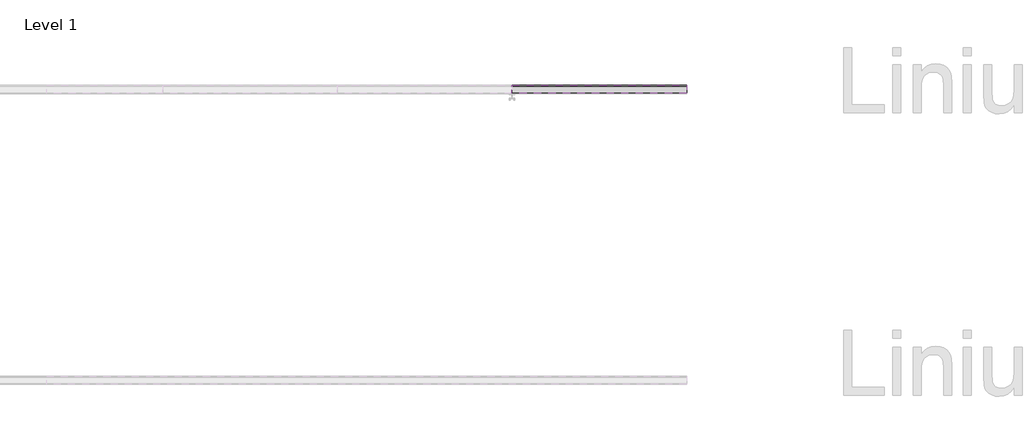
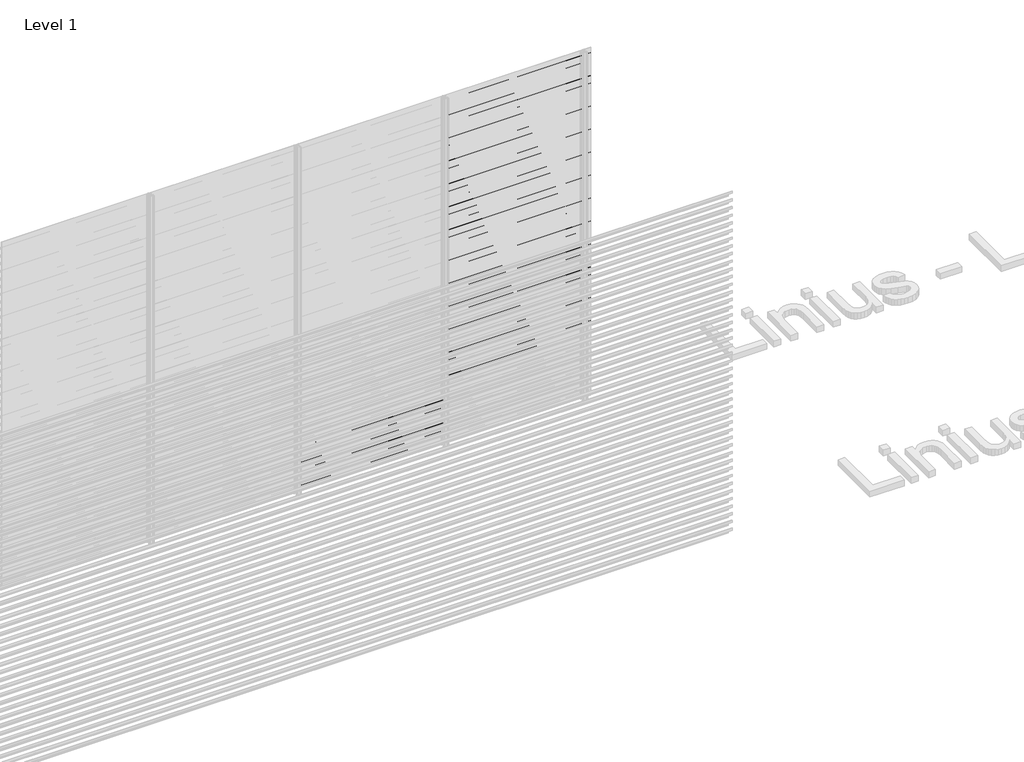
# One storey, part 136 of 540: 43 proxies.
"""IFC4 building model written with IfcOpenShell, lengths in millimetres."""

from ifc_helpers import new_model, si_unit, point, frame, frame_2d, origin, place, context, project, spatial, polyline, circle_curve, trimmed, segment, composite_curve, outline, extrude, element, save

model = new_model("IFC4")

# Units and contexts
model_context = context("Model", 3, world=origin())
ifc_project = project(units=[si_unit("LENGTHUNIT", "METRE", prefix="MILLI")], contexts=[model_context])

# Site, building, storey
site = spatial("IfcSite", under=ifc_project)
building = spatial("IfcBuilding", under=site)
storey = spatial("IfcBuildingStorey", under=building, Name="Level 1", Elevation=0.0)

# Proxies
placement = place(None, origin())
element("IfcBuildingElementProxy", 1, Name="Wall Sweeps", at=placement, inside=storey, context=model_context, shape_type="SweptSolid", body=[
    extrude(outline(composite_curve([segment(trimmed(circle_curve(frame_2d((21513.609548, 2899.7676769)), 26.4944656), [point((21530.5717655, 2920.1205608))], [point((21540.0540136, 2901.3946208))], False, "CARTESIAN"), True, "CONTINUOUS"), segment(polyline([(21540.0540136, 2901.3946208), (21540.0540136, 2893.5), (21538.8040136, 2894.2216933), (21538.8040136, 2899.7676769)]), True, "CONTINUOUS"), segment(trimmed(circle_curve(frame_2d((21513.609548, 2899.7676769)), 25.1944656), [point((21538.8040136, 2899.7676769))], [point((21529.7815085, 2919.086807))], True, "CARTESIAN"), True, "CONTINUOUS"), segment(polyline([(21529.7815085, 2919.086807), (21485.0540136, 2950.3158044), (21485.0540136, 2970.0), (21486.3040136, 2970.0), (21486.3040136, 2951.0285629), (21530.5717655, 2920.1205608)]), True, "CONTINUOUS")], self_intersect=False)), frame((94266.6208095, 0.0, 0.0), z_axis=(1.0, 0.0, 0.0), x_axis=(0.0, 1.0, 0.0)), (0.0, 0.0, 1.0), 1200.0000002),
])
element("IfcBuildingElementProxy", 2, Name="Wall Sweeps", at=placement, inside=storey, context=model_context, shape_type="SweptSolid", body=[
    extrude(outline(composite_curve([segment(trimmed(circle_curve(frame_2d((21513.609548, 2833.7676769)), 26.4944656), [point((21530.5717655, 2854.1205608))], [point((21540.0540136, 2835.3946208))], False, "CARTESIAN"), True, "CONTINUOUS"), segment(polyline([(21540.0540136, 2835.3946208), (21540.0540136, 2827.5), (21538.8040136, 2828.2216933), (21538.8040136, 2833.7676769)]), True, "CONTINUOUS"), segment(trimmed(circle_curve(frame_2d((21513.609548, 2833.7676769)), 25.1944656), [point((21538.8040136, 2833.7676769))], [point((21529.7815085, 2853.086807))], True, "CARTESIAN"), True, "CONTINUOUS"), segment(polyline([(21529.7815085, 2853.086807), (21485.0540136, 2884.3158044), (21485.0540136, 2904.0), (21486.3040136, 2904.0), (21486.3040136, 2885.0285629), (21530.5717655, 2854.1205608)]), True, "CONTINUOUS")], self_intersect=False)), frame((94266.6208095, 0.0, 0.0), z_axis=(1.0, 0.0, 0.0), x_axis=(0.0, 1.0, 0.0)), (0.0, 0.0, 1.0), 1200.0000002),
])
element("IfcBuildingElementProxy", 3, Name="Wall Sweeps", at=placement, inside=storey, context=model_context, shape_type="SweptSolid", body=[
    extrude(outline(composite_curve([segment(trimmed(circle_curve(frame_2d((21513.609548, 2767.7676769)), 26.4944656), [point((21530.5717655, 2788.1205608))], [point((21540.0540136, 2769.3946208))], False, "CARTESIAN"), True, "CONTINUOUS"), segment(polyline([(21540.0540136, 2769.3946208), (21540.0540136, 2761.5), (21538.8040136, 2762.2216933), (21538.8040136, 2767.7676769)]), True, "CONTINUOUS"), segment(trimmed(circle_curve(frame_2d((21513.609548, 2767.7676769)), 25.1944656), [point((21538.8040136, 2767.7676769))], [point((21529.7815085, 2787.086807))], True, "CARTESIAN"), True, "CONTINUOUS"), segment(polyline([(21529.7815085, 2787.086807), (21485.0540136, 2818.3158044), (21485.0540136, 2838.0), (21486.3040136, 2838.0), (21486.3040136, 2819.0285629), (21530.5717655, 2788.1205608)]), True, "CONTINUOUS")], self_intersect=False)), frame((94266.6208095, 0.0, 0.0), z_axis=(1.0, 0.0, 0.0), x_axis=(0.0, 1.0, 0.0)), (0.0, 0.0, 1.0), 1200.0000002),
])
element("IfcBuildingElementProxy", 4, Name="Wall Sweeps", at=placement, inside=storey, context=model_context, shape_type="SweptSolid", body=[
    extrude(outline(composite_curve([segment(trimmed(circle_curve(frame_2d((21513.609548, 2701.7676769)), 26.4944656), [point((21530.5717655, 2722.1205608))], [point((21540.0540136, 2703.3946208))], False, "CARTESIAN"), True, "CONTINUOUS"), segment(polyline([(21540.0540136, 2703.3946208), (21540.0540136, 2695.5), (21538.8040136, 2696.2216933), (21538.8040136, 2701.7676769)]), True, "CONTINUOUS"), segment(trimmed(circle_curve(frame_2d((21513.609548, 2701.7676769)), 25.1944656), [point((21538.8040136, 2701.7676769))], [point((21529.7815085, 2721.086807))], True, "CARTESIAN"), True, "CONTINUOUS"), segment(polyline([(21529.7815085, 2721.086807), (21485.0540136, 2752.3158044), (21485.0540136, 2772.0), (21486.3040136, 2772.0), (21486.3040136, 2753.0285629), (21530.5717655, 2722.1205608)]), True, "CONTINUOUS")], self_intersect=False)), frame((94266.6208095, 0.0, 0.0), z_axis=(1.0, 0.0, 0.0), x_axis=(0.0, 1.0, 0.0)), (0.0, 0.0, 1.0), 1200.0000002),
])
element("IfcBuildingElementProxy", 5, Name="Wall Sweeps", at=placement, inside=storey, context=model_context, shape_type="SweptSolid", body=[
    extrude(outline(composite_curve([segment(trimmed(circle_curve(frame_2d((21513.609548, 2635.7676769)), 26.4944656), [point((21530.5717655, 2656.1205608))], [point((21540.0540136, 2637.3946208))], False, "CARTESIAN"), True, "CONTINUOUS"), segment(polyline([(21540.0540136, 2637.3946208), (21540.0540136, 2629.5), (21538.8040136, 2630.2216933), (21538.8040136, 2635.7676769)]), True, "CONTINUOUS"), segment(trimmed(circle_curve(frame_2d((21513.609548, 2635.7676769)), 25.1944656), [point((21538.8040136, 2635.7676769))], [point((21529.7815085, 2655.086807))], True, "CARTESIAN"), True, "CONTINUOUS"), segment(polyline([(21529.7815085, 2655.086807), (21485.0540136, 2686.3158044), (21485.0540136, 2706.0), (21486.3040136, 2706.0), (21486.3040136, 2687.0285629), (21530.5717655, 2656.1205608)]), True, "CONTINUOUS")], self_intersect=False)), frame((94266.6208095, 0.0, 0.0), z_axis=(1.0, 0.0, 0.0), x_axis=(0.0, 1.0, 0.0)), (0.0, 0.0, 1.0), 1200.0000002),
])
element("IfcBuildingElementProxy", 6, Name="Wall Sweeps", at=placement, inside=storey, context=model_context, shape_type="SweptSolid", body=[
    extrude(outline(composite_curve([segment(trimmed(circle_curve(frame_2d((21513.609548, 2569.7676769)), 26.4944656), [point((21530.5717655, 2590.1205608))], [point((21540.0540136, 2571.3946208))], False, "CARTESIAN"), True, "CONTINUOUS"), segment(polyline([(21540.0540136, 2571.3946208), (21540.0540136, 2563.5), (21538.8040136, 2564.2216933), (21538.8040136, 2569.7676769)]), True, "CONTINUOUS"), segment(trimmed(circle_curve(frame_2d((21513.609548, 2569.7676769)), 25.1944656), [point((21538.8040136, 2569.7676769))], [point((21529.7815085, 2589.086807))], True, "CARTESIAN"), True, "CONTINUOUS"), segment(polyline([(21529.7815085, 2589.086807), (21485.0540136, 2620.3158044), (21485.0540136, 2640.0), (21486.3040136, 2640.0), (21486.3040136, 2621.0285629), (21530.5717655, 2590.1205608)]), True, "CONTINUOUS")], self_intersect=False)), frame((94266.6208095, 0.0, 0.0), z_axis=(1.0, 0.0, 0.0), x_axis=(0.0, 1.0, 0.0)), (0.0, 0.0, 1.0), 1200.0000002),
])
element("IfcBuildingElementProxy", 7, Name="Wall Sweeps", at=placement, inside=storey, context=model_context, shape_type="SweptSolid", body=[
    extrude(outline(composite_curve([segment(trimmed(circle_curve(frame_2d((21513.609548, 2503.7676769)), 26.4944656), [point((21530.5717655, 2524.1205608))], [point((21540.0540136, 2505.3946208))], False, "CARTESIAN"), True, "CONTINUOUS"), segment(polyline([(21540.0540136, 2505.3946208), (21540.0540136, 2497.5), (21538.8040136, 2498.2216933), (21538.8040136, 2503.7676769)]), True, "CONTINUOUS"), segment(trimmed(circle_curve(frame_2d((21513.609548, 2503.7676769)), 25.1944656), [point((21538.8040136, 2503.7676769))], [point((21529.7815085, 2523.086807))], True, "CARTESIAN"), True, "CONTINUOUS"), segment(polyline([(21529.7815085, 2523.086807), (21485.0540136, 2554.3158044), (21485.0540136, 2574.0), (21486.3040136, 2574.0), (21486.3040136, 2555.0285629), (21530.5717655, 2524.1205608)]), True, "CONTINUOUS")], self_intersect=False)), frame((94266.6208095, 0.0, 0.0), z_axis=(1.0, 0.0, 0.0), x_axis=(0.0, 1.0, 0.0)), (0.0, 0.0, 1.0), 1200.0000002),
])
element("IfcBuildingElementProxy", 8, Name="Wall Sweeps", at=placement, inside=storey, context=model_context, shape_type="SweptSolid", body=[
    extrude(outline(composite_curve([segment(trimmed(circle_curve(frame_2d((21513.609548, 2437.7676769)), 26.4944656), [point((21530.5717655, 2458.1205608))], [point((21540.0540136, 2439.3946208))], False, "CARTESIAN"), True, "CONTINUOUS"), segment(polyline([(21540.0540136, 2439.3946208), (21540.0540136, 2431.5), (21538.8040136, 2432.2216933), (21538.8040136, 2437.7676769)]), True, "CONTINUOUS"), segment(trimmed(circle_curve(frame_2d((21513.609548, 2437.7676769)), 25.1944656), [point((21538.8040136, 2437.7676769))], [point((21529.7815085, 2457.086807))], True, "CARTESIAN"), True, "CONTINUOUS"), segment(polyline([(21529.7815085, 2457.086807), (21485.0540136, 2488.3158044), (21485.0540136, 2508.0), (21486.3040136, 2508.0), (21486.3040136, 2489.0285629), (21530.5717655, 2458.1205608)]), True, "CONTINUOUS")], self_intersect=False)), frame((94266.6208095, 0.0, 0.0), z_axis=(1.0, 0.0, 0.0), x_axis=(0.0, 1.0, 0.0)), (0.0, 0.0, 1.0), 1200.0000002),
])
element("IfcBuildingElementProxy", 9, Name="Wall Sweeps", at=placement, inside=storey, context=model_context, shape_type="SweptSolid", body=[
    extrude(outline(composite_curve([segment(trimmed(circle_curve(frame_2d((21513.609548, 2371.7676769)), 26.4944656), [point((21530.5717655, 2392.1205608))], [point((21540.0540136, 2373.3946208))], False, "CARTESIAN"), True, "CONTINUOUS"), segment(polyline([(21540.0540136, 2373.3946208), (21540.0540136, 2365.5), (21538.8040136, 2366.2216933), (21538.8040136, 2371.7676769)]), True, "CONTINUOUS"), segment(trimmed(circle_curve(frame_2d((21513.609548, 2371.7676769)), 25.1944656), [point((21538.8040136, 2371.7676769))], [point((21529.7815085, 2391.086807))], True, "CARTESIAN"), True, "CONTINUOUS"), segment(polyline([(21529.7815085, 2391.086807), (21485.0540136, 2422.3158044), (21485.0540136, 2442.0), (21486.3040136, 2442.0), (21486.3040136, 2423.0285629), (21530.5717655, 2392.1205608)]), True, "CONTINUOUS")], self_intersect=False)), frame((94266.6208095, 0.0, 0.0), z_axis=(1.0, 0.0, 0.0), x_axis=(0.0, 1.0, 0.0)), (0.0, 0.0, 1.0), 1200.0000002),
])
element("IfcBuildingElementProxy", 10, Name="Wall Sweeps", at=placement, inside=storey, context=model_context, shape_type="SweptSolid", body=[
    extrude(outline(composite_curve([segment(trimmed(circle_curve(frame_2d((21513.609548, 2305.7676769)), 26.4944656), [point((21530.5717655, 2326.1205608))], [point((21540.0540136, 2307.3946208))], False, "CARTESIAN"), True, "CONTINUOUS"), segment(polyline([(21540.0540136, 2307.3946208), (21540.0540136, 2299.5), (21538.8040136, 2300.2216933), (21538.8040136, 2305.7676769)]), True, "CONTINUOUS"), segment(trimmed(circle_curve(frame_2d((21513.609548, 2305.7676769)), 25.1944656), [point((21538.8040136, 2305.7676769))], [point((21529.7815085, 2325.086807))], True, "CARTESIAN"), True, "CONTINUOUS"), segment(polyline([(21529.7815085, 2325.086807), (21485.0540136, 2356.3158044), (21485.0540136, 2376.0), (21486.3040136, 2376.0), (21486.3040136, 2357.0285629), (21530.5717655, 2326.1205608)]), True, "CONTINUOUS")], self_intersect=False)), frame((94266.6208095, 0.0, 0.0), z_axis=(1.0, 0.0, 0.0), x_axis=(0.0, 1.0, 0.0)), (0.0, 0.0, 1.0), 1200.0000002),
])
element("IfcBuildingElementProxy", 11, Name="Wall Sweeps", at=placement, inside=storey, context=model_context, shape_type="SweptSolid", body=[
    extrude(outline(composite_curve([segment(trimmed(circle_curve(frame_2d((21513.609548, 2239.7676769)), 26.4944656), [point((21530.5717655, 2260.1205608))], [point((21540.0540136, 2241.3946208))], False, "CARTESIAN"), True, "CONTINUOUS"), segment(polyline([(21540.0540136, 2241.3946208), (21540.0540136, 2233.5), (21538.8040136, 2234.2216933), (21538.8040136, 2239.7676769)]), True, "CONTINUOUS"), segment(trimmed(circle_curve(frame_2d((21513.609548, 2239.7676769)), 25.1944656), [point((21538.8040136, 2239.7676769))], [point((21529.7815085, 2259.086807))], True, "CARTESIAN"), True, "CONTINUOUS"), segment(polyline([(21529.7815085, 2259.086807), (21485.0540136, 2290.3158044), (21485.0540136, 2310.0), (21486.3040136, 2310.0), (21486.3040136, 2291.0285629), (21530.5717655, 2260.1205608)]), True, "CONTINUOUS")], self_intersect=False)), frame((94266.6208095, 0.0, 0.0), z_axis=(1.0, 0.0, 0.0), x_axis=(0.0, 1.0, 0.0)), (0.0, 0.0, 1.0), 1200.0000002),
])
element("IfcBuildingElementProxy", 12, Name="Wall Sweeps", at=placement, inside=storey, context=model_context, shape_type="SweptSolid", body=[
    extrude(outline(composite_curve([segment(trimmed(circle_curve(frame_2d((21513.609548, 2173.7676769)), 26.4944656), [point((21530.5717655, 2194.1205608))], [point((21540.0540136, 2175.3946208))], False, "CARTESIAN"), True, "CONTINUOUS"), segment(polyline([(21540.0540136, 2175.3946208), (21540.0540136, 2167.5), (21538.8040136, 2168.2216933), (21538.8040136, 2173.7676769)]), True, "CONTINUOUS"), segment(trimmed(circle_curve(frame_2d((21513.609548, 2173.7676769)), 25.1944656), [point((21538.8040136, 2173.7676769))], [point((21529.7815085, 2193.086807))], True, "CARTESIAN"), True, "CONTINUOUS"), segment(polyline([(21529.7815085, 2193.086807), (21485.0540136, 2224.3158044), (21485.0540136, 2244.0), (21486.3040136, 2244.0), (21486.3040136, 2225.0285629), (21530.5717655, 2194.1205608)]), True, "CONTINUOUS")], self_intersect=False)), frame((94266.6208095, 0.0, 0.0), z_axis=(1.0, 0.0, 0.0), x_axis=(0.0, 1.0, 0.0)), (0.0, 0.0, 1.0), 1200.0000002),
])
element("IfcBuildingElementProxy", 13, Name="Wall Sweeps", at=placement, inside=storey, context=model_context, shape_type="SweptSolid", body=[
    extrude(outline(composite_curve([segment(trimmed(circle_curve(frame_2d((21513.609548, 2107.7676769)), 26.4944656), [point((21530.5717655, 2128.1205608))], [point((21540.0540136, 2109.3946208))], False, "CARTESIAN"), True, "CONTINUOUS"), segment(polyline([(21540.0540136, 2109.3946208), (21540.0540136, 2101.5), (21538.8040136, 2102.2216933), (21538.8040136, 2107.7676769)]), True, "CONTINUOUS"), segment(trimmed(circle_curve(frame_2d((21513.609548, 2107.7676769)), 25.1944656), [point((21538.8040136, 2107.7676769))], [point((21529.7815085, 2127.086807))], True, "CARTESIAN"), True, "CONTINUOUS"), segment(polyline([(21529.7815085, 2127.086807), (21485.0540136, 2158.3158044), (21485.0540136, 2178.0), (21486.3040136, 2178.0), (21486.3040136, 2159.0285629), (21530.5717655, 2128.1205608)]), True, "CONTINUOUS")], self_intersect=False)), frame((94266.6208095, 0.0, 0.0), z_axis=(1.0, 0.0, 0.0), x_axis=(0.0, 1.0, 0.0)), (0.0, 0.0, 1.0), 1200.0000002),
])
element("IfcBuildingElementProxy", 14, Name="Wall Sweeps", at=placement, inside=storey, context=model_context, shape_type="SweptSolid", body=[
    extrude(outline(composite_curve([segment(trimmed(circle_curve(frame_2d((21513.609548, 2041.7676769)), 26.4944656), [point((21530.5717655, 2062.1205608))], [point((21540.0540136, 2043.3946208))], False, "CARTESIAN"), True, "CONTINUOUS"), segment(polyline([(21540.0540136, 2043.3946208), (21540.0540136, 2035.5), (21538.8040136, 2036.2216933), (21538.8040136, 2041.7676769)]), True, "CONTINUOUS"), segment(trimmed(circle_curve(frame_2d((21513.609548, 2041.7676769)), 25.1944656), [point((21538.8040136, 2041.7676769))], [point((21529.7815085, 2061.086807))], True, "CARTESIAN"), True, "CONTINUOUS"), segment(polyline([(21529.7815085, 2061.086807), (21485.0540136, 2092.3158044), (21485.0540136, 2112.0), (21486.3040136, 2112.0), (21486.3040136, 2093.0285629), (21530.5717655, 2062.1205608)]), True, "CONTINUOUS")], self_intersect=False)), frame((94266.6208095, 0.0, 0.0), z_axis=(1.0, 0.0, 0.0), x_axis=(0.0, 1.0, 0.0)), (0.0, 0.0, 1.0), 1200.0000002),
])
element("IfcBuildingElementProxy", 15, Name="Wall Sweeps", at=placement, inside=storey, context=model_context, shape_type="SweptSolid", body=[
    extrude(outline(composite_curve([segment(trimmed(circle_curve(frame_2d((21513.609548, 1975.7676769)), 26.4944656), [point((21530.5717655, 1996.1205608))], [point((21540.0540136, 1977.3946208))], False, "CARTESIAN"), True, "CONTINUOUS"), segment(polyline([(21540.0540136, 1977.3946208), (21540.0540136, 1969.5), (21538.8040136, 1970.2216933), (21538.8040136, 1975.7676769)]), True, "CONTINUOUS"), segment(trimmed(circle_curve(frame_2d((21513.609548, 1975.7676769)), 25.1944656), [point((21538.8040136, 1975.7676769))], [point((21529.7815085, 1995.086807))], True, "CARTESIAN"), True, "CONTINUOUS"), segment(polyline([(21529.7815085, 1995.086807), (21485.0540136, 2026.3158044), (21485.0540136, 2046.0), (21486.3040136, 2046.0), (21486.3040136, 2027.0285629), (21530.5717655, 1996.1205608)]), True, "CONTINUOUS")], self_intersect=False)), frame((94266.6208095, 0.0, 0.0), z_axis=(1.0, 0.0, 0.0), x_axis=(0.0, 1.0, 0.0)), (0.0, 0.0, 1.0), 1200.0000002),
])
element("IfcBuildingElementProxy", 16, Name="Wall Sweeps", at=placement, inside=storey, context=model_context, shape_type="SweptSolid", body=[
    extrude(outline(composite_curve([segment(trimmed(circle_curve(frame_2d((21513.609548, 1909.7676769)), 26.4944656), [point((21530.5717655, 1930.1205608))], [point((21540.0540136, 1911.3946208))], False, "CARTESIAN"), True, "CONTINUOUS"), segment(polyline([(21540.0540136, 1911.3946208), (21540.0540136, 1903.5), (21538.8040136, 1904.2216933), (21538.8040136, 1909.7676769)]), True, "CONTINUOUS"), segment(trimmed(circle_curve(frame_2d((21513.609548, 1909.7676769)), 25.1944656), [point((21538.8040136, 1909.7676769))], [point((21529.7815085, 1929.086807))], True, "CARTESIAN"), True, "CONTINUOUS"), segment(polyline([(21529.7815085, 1929.086807), (21485.0540136, 1960.3158044), (21485.0540136, 1980.0), (21486.3040136, 1980.0), (21486.3040136, 1961.0285629), (21530.5717655, 1930.1205608)]), True, "CONTINUOUS")], self_intersect=False)), frame((94266.6208095, 0.0, 0.0), z_axis=(1.0, 0.0, 0.0), x_axis=(0.0, 1.0, 0.0)), (0.0, 0.0, 1.0), 1200.0000002),
])
element("IfcBuildingElementProxy", 17, Name="Wall Sweeps", at=placement, inside=storey, context=model_context, shape_type="SweptSolid", body=[
    extrude(outline(composite_curve([segment(trimmed(circle_curve(frame_2d((21513.609548, 1843.7676769)), 26.4944656), [point((21530.5717655, 1864.1205608))], [point((21540.0540136, 1845.3946208))], False, "CARTESIAN"), True, "CONTINUOUS"), segment(polyline([(21540.0540136, 1845.3946208), (21540.0540136, 1837.5), (21538.8040136, 1838.2216933), (21538.8040136, 1843.7676769)]), True, "CONTINUOUS"), segment(trimmed(circle_curve(frame_2d((21513.609548, 1843.7676769)), 25.1944656), [point((21538.8040136, 1843.7676769))], [point((21529.7815085, 1863.086807))], True, "CARTESIAN"), True, "CONTINUOUS"), segment(polyline([(21529.7815085, 1863.086807), (21485.0540136, 1894.3158044), (21485.0540136, 1914.0), (21486.3040136, 1914.0), (21486.3040136, 1895.0285629), (21530.5717655, 1864.1205608)]), True, "CONTINUOUS")], self_intersect=False)), frame((94266.6208095, 0.0, 0.0), z_axis=(1.0, 0.0, 0.0), x_axis=(0.0, 1.0, 0.0)), (0.0, 0.0, 1.0), 1200.0000002),
])
element("IfcBuildingElementProxy", 18, Name="Wall Sweeps", at=placement, inside=storey, context=model_context, shape_type="SweptSolid", body=[
    extrude(outline(composite_curve([segment(trimmed(circle_curve(frame_2d((21513.609548, 1777.7676769)), 26.4944656), [point((21530.5717655, 1798.1205608))], [point((21540.0540136, 1779.3946208))], False, "CARTESIAN"), True, "CONTINUOUS"), segment(polyline([(21540.0540136, 1779.3946208), (21540.0540136, 1771.5), (21538.8040136, 1772.2216933), (21538.8040136, 1777.7676769)]), True, "CONTINUOUS"), segment(trimmed(circle_curve(frame_2d((21513.609548, 1777.7676769)), 25.1944656), [point((21538.8040136, 1777.7676769))], [point((21529.7815085, 1797.086807))], True, "CARTESIAN"), True, "CONTINUOUS"), segment(polyline([(21529.7815085, 1797.086807), (21485.0540136, 1828.3158044), (21485.0540136, 1848.0), (21486.3040136, 1848.0), (21486.3040136, 1829.0285629), (21530.5717655, 1798.1205608)]), True, "CONTINUOUS")], self_intersect=False)), frame((94266.6208095, 0.0, 0.0), z_axis=(1.0, 0.0, 0.0), x_axis=(0.0, 1.0, 0.0)), (0.0, 0.0, 1.0), 1200.0000002),
])
element("IfcBuildingElementProxy", 19, Name="Wall Sweeps", at=placement, inside=storey, context=model_context, shape_type="SweptSolid", body=[
    extrude(outline(composite_curve([segment(trimmed(circle_curve(frame_2d((21513.609548, 1711.7676769)), 26.4944656), [point((21530.5717655, 1732.1205608))], [point((21540.0540136, 1713.3946208))], False, "CARTESIAN"), True, "CONTINUOUS"), segment(polyline([(21540.0540136, 1713.3946208), (21540.0540136, 1705.5), (21538.8040136, 1706.2216933), (21538.8040136, 1711.7676769)]), True, "CONTINUOUS"), segment(trimmed(circle_curve(frame_2d((21513.609548, 1711.7676769)), 25.1944656), [point((21538.8040136, 1711.7676769))], [point((21529.7815085, 1731.086807))], True, "CARTESIAN"), True, "CONTINUOUS"), segment(polyline([(21529.7815085, 1731.086807), (21485.0540136, 1762.3158044), (21485.0540136, 1782.0), (21486.3040136, 1782.0), (21486.3040136, 1763.0285629), (21530.5717655, 1732.1205608)]), True, "CONTINUOUS")], self_intersect=False)), frame((94266.6208095, 0.0, 0.0), z_axis=(1.0, 0.0, 0.0), x_axis=(0.0, 1.0, 0.0)), (0.0, 0.0, 1.0), 1200.0000002),
])
element("IfcBuildingElementProxy", 20, Name="Wall Sweeps", at=placement, inside=storey, context=model_context, shape_type="SweptSolid", body=[
    extrude(outline(composite_curve([segment(trimmed(circle_curve(frame_2d((21513.609548, 1645.7676769)), 26.4944656), [point((21530.5717655, 1666.1205608))], [point((21540.0540136, 1647.3946208))], False, "CARTESIAN"), True, "CONTINUOUS"), segment(polyline([(21540.0540136, 1647.3946208), (21540.0540136, 1639.5), (21538.8040136, 1640.2216933), (21538.8040136, 1645.7676769)]), True, "CONTINUOUS"), segment(trimmed(circle_curve(frame_2d((21513.609548, 1645.7676769)), 25.1944656), [point((21538.8040136, 1645.7676769))], [point((21529.7815085, 1665.086807))], True, "CARTESIAN"), True, "CONTINUOUS"), segment(polyline([(21529.7815085, 1665.086807), (21485.0540136, 1696.3158044), (21485.0540136, 1716.0), (21486.3040136, 1716.0), (21486.3040136, 1697.0285629), (21530.5717655, 1666.1205608)]), True, "CONTINUOUS")], self_intersect=False)), frame((94266.6208095, 0.0, 0.0), z_axis=(1.0, 0.0, 0.0), x_axis=(0.0, 1.0, 0.0)), (0.0, 0.0, 1.0), 1200.0000002),
])
element("IfcBuildingElementProxy", 21, Name="Wall Sweeps", at=placement, inside=storey, context=model_context, shape_type="SweptSolid", body=[
    extrude(outline(composite_curve([segment(trimmed(circle_curve(frame_2d((21513.609548, 1579.7676769)), 26.4944656), [point((21530.5717655, 1600.1205608))], [point((21540.0540136, 1581.3946208))], False, "CARTESIAN"), True, "CONTINUOUS"), segment(polyline([(21540.0540136, 1581.3946208), (21540.0540136, 1573.5), (21538.8040136, 1574.2216933), (21538.8040136, 1579.7676769)]), True, "CONTINUOUS"), segment(trimmed(circle_curve(frame_2d((21513.609548, 1579.7676769)), 25.1944656), [point((21538.8040136, 1579.7676769))], [point((21529.7815085, 1599.086807))], True, "CARTESIAN"), True, "CONTINUOUS"), segment(polyline([(21529.7815085, 1599.086807), (21485.0540136, 1630.3158044), (21485.0540136, 1650.0), (21486.3040136, 1650.0), (21486.3040136, 1631.0285629), (21530.5717655, 1600.1205608)]), True, "CONTINUOUS")], self_intersect=False)), frame((94266.6208095, 0.0, 0.0), z_axis=(1.0, 0.0, 0.0), x_axis=(0.0, 1.0, 0.0)), (0.0, 0.0, 1.0), 1200.0000002),
])
element("IfcBuildingElementProxy", 22, Name="Wall Sweeps", at=placement, inside=storey, context=model_context, shape_type="SweptSolid", body=[
    extrude(outline(composite_curve([segment(trimmed(circle_curve(frame_2d((21513.609548, 1513.7676769)), 26.4944656), [point((21530.5717655, 1534.1205608))], [point((21540.0540136, 1515.3946208))], False, "CARTESIAN"), True, "CONTINUOUS"), segment(polyline([(21540.0540136, 1515.3946208), (21540.0540136, 1507.5), (21538.8040136, 1508.2216933), (21538.8040136, 1513.7676769)]), True, "CONTINUOUS"), segment(trimmed(circle_curve(frame_2d((21513.609548, 1513.7676769)), 25.1944656), [point((21538.8040136, 1513.7676769))], [point((21529.7815085, 1533.086807))], True, "CARTESIAN"), True, "CONTINUOUS"), segment(polyline([(21529.7815085, 1533.086807), (21485.0540136, 1564.3158044), (21485.0540136, 1584.0), (21486.3040136, 1584.0), (21486.3040136, 1565.0285629), (21530.5717655, 1534.1205608)]), True, "CONTINUOUS")], self_intersect=False)), frame((94266.6208095, 0.0, 0.0), z_axis=(1.0, 0.0, 0.0), x_axis=(0.0, 1.0, 0.0)), (0.0, 0.0, 1.0), 1200.0000002),
])
element("IfcBuildingElementProxy", 23, Name="Wall Sweeps", at=placement, inside=storey, context=model_context, shape_type="SweptSolid", body=[
    extrude(outline(composite_curve([segment(trimmed(circle_curve(frame_2d((21513.609548, 1447.7676769)), 26.4944656), [point((21530.5717655, 1468.1205608))], [point((21540.0540136, 1449.3946208))], False, "CARTESIAN"), True, "CONTINUOUS"), segment(polyline([(21540.0540136, 1449.3946208), (21540.0540136, 1441.5), (21538.8040136, 1442.2216933), (21538.8040136, 1447.7676769)]), True, "CONTINUOUS"), segment(trimmed(circle_curve(frame_2d((21513.609548, 1447.7676769)), 25.1944656), [point((21538.8040136, 1447.7676769))], [point((21529.7815085, 1467.086807))], True, "CARTESIAN"), True, "CONTINUOUS"), segment(polyline([(21529.7815085, 1467.086807), (21485.0540136, 1498.3158044), (21485.0540136, 1518.0), (21486.3040136, 1518.0), (21486.3040136, 1499.0285629), (21530.5717655, 1468.1205608)]), True, "CONTINUOUS")], self_intersect=False)), frame((94266.6208095, 0.0, 0.0), z_axis=(1.0, 0.0, 0.0), x_axis=(0.0, 1.0, 0.0)), (0.0, 0.0, 1.0), 1200.0000002),
])
element("IfcBuildingElementProxy", 24, Name="Wall Sweeps", at=placement, inside=storey, context=model_context, shape_type="SweptSolid", body=[
    extrude(outline(composite_curve([segment(trimmed(circle_curve(frame_2d((21513.609548, 1381.7676769)), 26.4944656), [point((21530.5717655, 1402.1205608))], [point((21540.0540136, 1383.3946208))], False, "CARTESIAN"), True, "CONTINUOUS"), segment(polyline([(21540.0540136, 1383.3946208), (21540.0540136, 1375.5), (21538.8040136, 1376.2216933), (21538.8040136, 1381.7676769)]), True, "CONTINUOUS"), segment(trimmed(circle_curve(frame_2d((21513.609548, 1381.7676769)), 25.1944656), [point((21538.8040136, 1381.7676769))], [point((21529.7815085, 1401.086807))], True, "CARTESIAN"), True, "CONTINUOUS"), segment(polyline([(21529.7815085, 1401.086807), (21485.0540136, 1432.3158044), (21485.0540136, 1452.0), (21486.3040136, 1452.0), (21486.3040136, 1433.0285629), (21530.5717655, 1402.1205608)]), True, "CONTINUOUS")], self_intersect=False)), frame((94266.6208095, 0.0, 0.0), z_axis=(1.0, 0.0, 0.0), x_axis=(0.0, 1.0, 0.0)), (0.0, 0.0, 1.0), 1200.0000002),
])
element("IfcBuildingElementProxy", 25, Name="Wall Sweeps", at=placement, inside=storey, context=model_context, shape_type="SweptSolid", body=[
    extrude(outline(composite_curve([segment(trimmed(circle_curve(frame_2d((21513.609548, 1315.7676769)), 26.4944656), [point((21530.5717655, 1336.1205608))], [point((21540.0540136, 1317.3946208))], False, "CARTESIAN"), True, "CONTINUOUS"), segment(polyline([(21540.0540136, 1317.3946208), (21540.0540136, 1309.5), (21538.8040136, 1310.2216933), (21538.8040136, 1315.7676769)]), True, "CONTINUOUS"), segment(trimmed(circle_curve(frame_2d((21513.609548, 1315.7676769)), 25.1944656), [point((21538.8040136, 1315.7676769))], [point((21529.7815085, 1335.086807))], True, "CARTESIAN"), True, "CONTINUOUS"), segment(polyline([(21529.7815085, 1335.086807), (21485.0540136, 1366.3158044), (21485.0540136, 1386.0), (21486.3040136, 1386.0), (21486.3040136, 1367.0285629), (21530.5717655, 1336.1205608)]), True, "CONTINUOUS")], self_intersect=False)), frame((94266.6208095, 0.0, 0.0), z_axis=(1.0, 0.0, 0.0), x_axis=(0.0, 1.0, 0.0)), (0.0, 0.0, 1.0), 1200.0000002),
])
element("IfcBuildingElementProxy", 26, Name="Wall Sweeps", at=placement, inside=storey, context=model_context, shape_type="SweptSolid", body=[
    extrude(outline(composite_curve([segment(trimmed(circle_curve(frame_2d((21513.609548, 1249.7676769)), 26.4944656), [point((21530.5717655, 1270.1205608))], [point((21540.0540136, 1251.3946208))], False, "CARTESIAN"), True, "CONTINUOUS"), segment(polyline([(21540.0540136, 1251.3946208), (21540.0540136, 1243.5), (21538.8040136, 1244.2216933), (21538.8040136, 1249.7676769)]), True, "CONTINUOUS"), segment(trimmed(circle_curve(frame_2d((21513.609548, 1249.7676769)), 25.1944656), [point((21538.8040136, 1249.7676769))], [point((21529.7815085, 1269.086807))], True, "CARTESIAN"), True, "CONTINUOUS"), segment(polyline([(21529.7815085, 1269.086807), (21485.0540136, 1300.3158044), (21485.0540136, 1320.0), (21486.3040136, 1320.0), (21486.3040136, 1301.0285629), (21530.5717655, 1270.1205608)]), True, "CONTINUOUS")], self_intersect=False)), frame((94266.6208095, 0.0, 0.0), z_axis=(1.0, 0.0, 0.0), x_axis=(0.0, 1.0, 0.0)), (0.0, 0.0, 1.0), 1200.0000002),
])
element("IfcBuildingElementProxy", 27, Name="Wall Sweeps", at=placement, inside=storey, context=model_context, shape_type="SweptSolid", body=[
    extrude(outline(composite_curve([segment(trimmed(circle_curve(frame_2d((21513.609548, 1183.7676769)), 26.4944656), [point((21530.5717655, 1204.1205608))], [point((21540.0540136, 1185.3946208))], False, "CARTESIAN"), True, "CONTINUOUS"), segment(polyline([(21540.0540136, 1185.3946208), (21540.0540136, 1177.5), (21538.8040136, 1178.2216933), (21538.8040136, 1183.7676769)]), True, "CONTINUOUS"), segment(trimmed(circle_curve(frame_2d((21513.609548, 1183.7676769)), 25.1944656), [point((21538.8040136, 1183.7676769))], [point((21529.7815085, 1203.086807))], True, "CARTESIAN"), True, "CONTINUOUS"), segment(polyline([(21529.7815085, 1203.086807), (21485.0540136, 1234.3158044), (21485.0540136, 1254.0), (21486.3040136, 1254.0), (21486.3040136, 1235.0285629), (21530.5717655, 1204.1205608)]), True, "CONTINUOUS")], self_intersect=False)), frame((94266.6208095, 0.0, 0.0), z_axis=(1.0, 0.0, 0.0), x_axis=(0.0, 1.0, 0.0)), (0.0, 0.0, 1.0), 1200.0000002),
])
element("IfcBuildingElementProxy", 28, Name="Wall Sweeps", at=placement, inside=storey, context=model_context, shape_type="SweptSolid", body=[
    extrude(outline(composite_curve([segment(trimmed(circle_curve(frame_2d((21513.609548, 1117.7676769)), 26.4944656), [point((21530.5717655, 1138.1205608))], [point((21540.0540136, 1119.3946208))], False, "CARTESIAN"), True, "CONTINUOUS"), segment(polyline([(21540.0540136, 1119.3946208), (21540.0540136, 1111.5), (21538.8040136, 1112.2216933), (21538.8040136, 1117.7676769)]), True, "CONTINUOUS"), segment(trimmed(circle_curve(frame_2d((21513.609548, 1117.7676769)), 25.1944656), [point((21538.8040136, 1117.7676769))], [point((21529.7815085, 1137.086807))], True, "CARTESIAN"), True, "CONTINUOUS"), segment(polyline([(21529.7815085, 1137.086807), (21485.0540136, 1168.3158044), (21485.0540136, 1188.0), (21486.3040136, 1188.0), (21486.3040136, 1169.0285629), (21530.5717655, 1138.1205608)]), True, "CONTINUOUS")], self_intersect=False)), frame((94266.6208095, 0.0, 0.0), z_axis=(1.0, 0.0, 0.0), x_axis=(0.0, 1.0, 0.0)), (0.0, 0.0, 1.0), 1200.0000002),
])
element("IfcBuildingElementProxy", 29, Name="Wall Sweeps", at=placement, inside=storey, context=model_context, shape_type="SweptSolid", body=[
    extrude(outline(composite_curve([segment(trimmed(circle_curve(frame_2d((21513.609548, 1051.7676769)), 26.4944656), [point((21530.5717655, 1072.1205608))], [point((21540.0540136, 1053.3946208))], False, "CARTESIAN"), True, "CONTINUOUS"), segment(polyline([(21540.0540136, 1053.3946208), (21540.0540136, 1045.5), (21538.8040136, 1046.2216933), (21538.8040136, 1051.7676769)]), True, "CONTINUOUS"), segment(trimmed(circle_curve(frame_2d((21513.609548, 1051.7676769)), 25.1944656), [point((21538.8040136, 1051.7676769))], [point((21529.7815085, 1071.086807))], True, "CARTESIAN"), True, "CONTINUOUS"), segment(polyline([(21529.7815085, 1071.086807), (21485.0540136, 1102.3158044), (21485.0540136, 1122.0), (21486.3040136, 1122.0), (21486.3040136, 1103.0285629), (21530.5717655, 1072.1205608)]), True, "CONTINUOUS")], self_intersect=False)), frame((94266.6208095, 0.0, 0.0), z_axis=(1.0, 0.0, 0.0), x_axis=(0.0, 1.0, 0.0)), (0.0, 0.0, 1.0), 1200.0000002),
])
element("IfcBuildingElementProxy", 30, Name="Wall Sweeps", at=placement, inside=storey, context=model_context, shape_type="SweptSolid", body=[
    extrude(outline(composite_curve([segment(trimmed(circle_curve(frame_2d((21513.609548, 985.7676769)), 26.4944656), [point((21530.5717655, 1006.1205608))], [point((21540.0540136, 987.3946208))], False, "CARTESIAN"), True, "CONTINUOUS"), segment(polyline([(21540.0540136, 987.3946208), (21540.0540136, 979.5), (21538.8040136, 980.2216933), (21538.8040136, 985.7676769)]), True, "CONTINUOUS"), segment(trimmed(circle_curve(frame_2d((21513.609548, 985.7676769)), 25.1944656), [point((21538.8040136, 985.7676769))], [point((21529.7815085, 1005.086807))], True, "CARTESIAN"), True, "CONTINUOUS"), segment(polyline([(21529.7815085, 1005.086807), (21485.0540136, 1036.3158044), (21485.0540136, 1056.0), (21486.3040136, 1056.0), (21486.3040136, 1037.0285629), (21530.5717655, 1006.1205608)]), True, "CONTINUOUS")], self_intersect=False)), frame((94266.6208095, 0.0, 0.0), z_axis=(1.0, 0.0, 0.0), x_axis=(0.0, 1.0, 0.0)), (0.0, 0.0, 1.0), 1200.0000002),
])
element("IfcBuildingElementProxy", 31, Name="Wall Sweeps", at=placement, inside=storey, context=model_context, shape_type="SweptSolid", body=[
    extrude(outline(composite_curve([segment(trimmed(circle_curve(frame_2d((21513.609548, 919.7676769)), 26.4944656), [point((21530.5717655, 940.1205608))], [point((21540.0540136, 921.3946208))], False, "CARTESIAN"), True, "CONTINUOUS"), segment(polyline([(21540.0540136, 921.3946208), (21540.0540136, 913.5), (21538.8040136, 914.2216933), (21538.8040136, 919.7676769)]), True, "CONTINUOUS"), segment(trimmed(circle_curve(frame_2d((21513.609548, 919.7676769)), 25.1944656), [point((21538.8040136, 919.7676769))], [point((21529.7815085, 939.086807))], True, "CARTESIAN"), True, "CONTINUOUS"), segment(polyline([(21529.7815085, 939.086807), (21485.0540136, 970.3158044), (21485.0540136, 990.0), (21486.3040136, 990.0), (21486.3040136, 971.0285629), (21530.5717655, 940.1205608)]), True, "CONTINUOUS")], self_intersect=False)), frame((94266.6208095, 0.0, 0.0), z_axis=(1.0, 0.0, 0.0), x_axis=(0.0, 1.0, 0.0)), (0.0, 0.0, 1.0), 1200.0000002),
])
element("IfcBuildingElementProxy", 32, Name="Wall Sweeps", at=placement, inside=storey, context=model_context, shape_type="SweptSolid", body=[
    extrude(outline(composite_curve([segment(trimmed(circle_curve(frame_2d((21513.609548, 853.7676769)), 26.4944656), [point((21530.5717655, 874.1205608))], [point((21540.0540136, 855.3946208))], False, "CARTESIAN"), True, "CONTINUOUS"), segment(polyline([(21540.0540136, 855.3946208), (21540.0540136, 847.5), (21538.8040136, 848.2216933), (21538.8040136, 853.7676769)]), True, "CONTINUOUS"), segment(trimmed(circle_curve(frame_2d((21513.609548, 853.7676769)), 25.1944656), [point((21538.8040136, 853.7676769))], [point((21529.7815085, 873.086807))], True, "CARTESIAN"), True, "CONTINUOUS"), segment(polyline([(21529.7815085, 873.086807), (21485.0540136, 904.3158044), (21485.0540136, 924.0), (21486.3040136, 924.0), (21486.3040136, 905.0285629), (21530.5717655, 874.1205608)]), True, "CONTINUOUS")], self_intersect=False)), frame((94266.6208095, 0.0, 0.0), z_axis=(1.0, 0.0, 0.0), x_axis=(0.0, 1.0, 0.0)), (0.0, 0.0, 1.0), 1200.0000002),
])
element("IfcBuildingElementProxy", 33, Name="Wall Sweeps", at=placement, inside=storey, context=model_context, shape_type="SweptSolid", body=[
    extrude(outline(composite_curve([segment(trimmed(circle_curve(frame_2d((21513.609548, 787.7676769)), 26.4944656), [point((21530.5717655, 808.1205608))], [point((21540.0540136, 789.3946208))], False, "CARTESIAN"), True, "CONTINUOUS"), segment(polyline([(21540.0540136, 789.3946208), (21540.0540136, 781.5), (21538.8040136, 782.2216933), (21538.8040136, 787.7676769)]), True, "CONTINUOUS"), segment(trimmed(circle_curve(frame_2d((21513.609548, 787.7676769)), 25.1944656), [point((21538.8040136, 787.7676769))], [point((21529.7815085, 807.086807))], True, "CARTESIAN"), True, "CONTINUOUS"), segment(polyline([(21529.7815085, 807.086807), (21485.0540136, 838.3158044), (21485.0540136, 858.0), (21486.3040136, 858.0), (21486.3040136, 839.0285629), (21530.5717655, 808.1205608)]), True, "CONTINUOUS")], self_intersect=False)), frame((94266.6208095, 0.0, 0.0), z_axis=(1.0, 0.0, 0.0), x_axis=(0.0, 1.0, 0.0)), (0.0, 0.0, 1.0), 1200.0000002),
])
element("IfcBuildingElementProxy", 34, Name="Wall Sweeps", at=placement, inside=storey, context=model_context, shape_type="SweptSolid", body=[
    extrude(outline(composite_curve([segment(trimmed(circle_curve(frame_2d((21513.609548, 721.7676769)), 26.4944656), [point((21530.5717655, 742.1205608))], [point((21540.0540136, 723.3946208))], False, "CARTESIAN"), True, "CONTINUOUS"), segment(polyline([(21540.0540136, 723.3946208), (21540.0540136, 715.5), (21538.8040136, 716.2216933), (21538.8040136, 721.7676769)]), True, "CONTINUOUS"), segment(trimmed(circle_curve(frame_2d((21513.609548, 721.7676769)), 25.1944656), [point((21538.8040136, 721.7676769))], [point((21529.7815085, 741.086807))], True, "CARTESIAN"), True, "CONTINUOUS"), segment(polyline([(21529.7815085, 741.086807), (21485.0540136, 772.3158044), (21485.0540136, 792.0), (21486.3040136, 792.0), (21486.3040136, 773.0285629), (21530.5717655, 742.1205608)]), True, "CONTINUOUS")], self_intersect=False)), frame((94266.6208095, 0.0, 0.0), z_axis=(1.0, 0.0, 0.0), x_axis=(0.0, 1.0, 0.0)), (0.0, 0.0, 1.0), 1200.0000002),
])
element("IfcBuildingElementProxy", 35, Name="Wall Sweeps", at=placement, inside=storey, context=model_context, shape_type="SweptSolid", body=[
    extrude(outline(composite_curve([segment(trimmed(circle_curve(frame_2d((21513.609548, 655.7676769)), 26.4944656), [point((21530.5717655, 676.1205608))], [point((21540.0540136, 657.3946208))], False, "CARTESIAN"), True, "CONTINUOUS"), segment(polyline([(21540.0540136, 657.3946208), (21540.0540136, 649.5), (21538.8040136, 650.2216933), (21538.8040136, 655.7676769)]), True, "CONTINUOUS"), segment(trimmed(circle_curve(frame_2d((21513.609548, 655.7676769)), 25.1944656), [point((21538.8040136, 655.7676769))], [point((21529.7815085, 675.086807))], True, "CARTESIAN"), True, "CONTINUOUS"), segment(polyline([(21529.7815085, 675.086807), (21485.0540136, 706.3158044), (21485.0540136, 726.0), (21486.3040136, 726.0), (21486.3040136, 707.0285629), (21530.5717655, 676.1205608)]), True, "CONTINUOUS")], self_intersect=False)), frame((94266.6208095, 0.0, 0.0), z_axis=(1.0, 0.0, 0.0), x_axis=(0.0, 1.0, 0.0)), (0.0, 0.0, 1.0), 1200.0000002),
])
element("IfcBuildingElementProxy", 36, Name="Wall Sweeps", at=placement, inside=storey, context=model_context, shape_type="SweptSolid", body=[
    extrude(outline(composite_curve([segment(trimmed(circle_curve(frame_2d((21513.609548, 589.7676769)), 26.4944656), [point((21530.5717655, 610.1205608))], [point((21540.0540136, 591.3946208))], False, "CARTESIAN"), True, "CONTINUOUS"), segment(polyline([(21540.0540136, 591.3946208), (21540.0540136, 583.5), (21538.8040136, 584.2216933), (21538.8040136, 589.7676769)]), True, "CONTINUOUS"), segment(trimmed(circle_curve(frame_2d((21513.609548, 589.7676769)), 25.1944656), [point((21538.8040136, 589.7676769))], [point((21529.7815085, 609.086807))], True, "CARTESIAN"), True, "CONTINUOUS"), segment(polyline([(21529.7815085, 609.086807), (21485.0540136, 640.3158044), (21485.0540136, 660.0), (21486.3040136, 660.0), (21486.3040136, 641.0285629), (21530.5717655, 610.1205608)]), True, "CONTINUOUS")], self_intersect=False)), frame((94266.6208095, 0.0, 0.0), z_axis=(1.0, 0.0, 0.0), x_axis=(0.0, 1.0, 0.0)), (0.0, 0.0, 1.0), 1200.0000002),
])
element("IfcBuildingElementProxy", 37, Name="Wall Sweeps", at=placement, inside=storey, context=model_context, shape_type="SweptSolid", body=[
    extrude(outline(composite_curve([segment(trimmed(circle_curve(frame_2d((21513.609548, 523.7676769)), 26.4944656), [point((21530.5717655, 544.1205608))], [point((21540.0540136, 525.3946208))], False, "CARTESIAN"), True, "CONTINUOUS"), segment(polyline([(21540.0540136, 525.3946208), (21540.0540136, 517.5), (21538.8040136, 518.2216933), (21538.8040136, 523.7676769)]), True, "CONTINUOUS"), segment(trimmed(circle_curve(frame_2d((21513.609548, 523.7676769)), 25.1944656), [point((21538.8040136, 523.7676769))], [point((21529.7815085, 543.086807))], True, "CARTESIAN"), True, "CONTINUOUS"), segment(polyline([(21529.7815085, 543.086807), (21485.0540136, 574.3158044), (21485.0540136, 594.0), (21486.3040136, 594.0), (21486.3040136, 575.0285629), (21530.5717655, 544.1205608)]), True, "CONTINUOUS")], self_intersect=False)), frame((94266.6208095, 0.0, 0.0), z_axis=(1.0, 0.0, 0.0), x_axis=(0.0, 1.0, 0.0)), (0.0, 0.0, 1.0), 1200.0000002),
])
element("IfcBuildingElementProxy", 38, Name="Wall Sweeps", at=placement, inside=storey, context=model_context, shape_type="SweptSolid", body=[
    extrude(outline(composite_curve([segment(trimmed(circle_curve(frame_2d((21513.609548, 325.7676769)), 26.4944656), [point((21530.5717655, 346.1205608))], [point((21540.0540136, 327.3946208))], False, "CARTESIAN"), True, "CONTINUOUS"), segment(polyline([(21540.0540136, 327.3946208), (21540.0540136, 319.5), (21538.8040136, 320.2216933), (21538.8040136, 325.7676769)]), True, "CONTINUOUS"), segment(trimmed(circle_curve(frame_2d((21513.609548, 325.7676769)), 25.1944656), [point((21538.8040136, 325.7676769))], [point((21529.7815085, 345.086807))], True, "CARTESIAN"), True, "CONTINUOUS"), segment(polyline([(21529.7815085, 345.086807), (21485.0540136, 376.3158044), (21485.0540136, 396.0), (21486.3040136, 396.0), (21486.3040136, 377.0285629), (21530.5717655, 346.1205608)]), True, "CONTINUOUS")], self_intersect=False)), frame((93066.6208096, 0.0, 0.0), z_axis=(1.0, 0.0, 0.0), x_axis=(0.0, 1.0, 0.0)), (0.0, 0.0, 1.0), 1199.9999999),
])
element("IfcBuildingElementProxy", 39, Name="Wall Sweeps", at=placement, inside=storey, context=model_context, shape_type="SweptSolid", body=[
    extrude(outline(composite_curve([segment(trimmed(circle_curve(frame_2d((21513.609548, 259.7676769)), 26.4944656), [point((21530.5717655, 280.1205608))], [point((21540.0540136, 261.3946208))], False, "CARTESIAN"), True, "CONTINUOUS"), segment(polyline([(21540.0540136, 261.3946208), (21540.0540136, 253.5), (21538.8040136, 254.2216933), (21538.8040136, 259.7676769)]), True, "CONTINUOUS"), segment(trimmed(circle_curve(frame_2d((21513.609548, 259.7676769)), 25.1944656), [point((21538.8040136, 259.7676769))], [point((21529.7815085, 279.086807))], True, "CARTESIAN"), True, "CONTINUOUS"), segment(polyline([(21529.7815085, 279.086807), (21485.0540136, 310.3158044), (21485.0540136, 330.0), (21486.3040136, 330.0), (21486.3040136, 311.0285629), (21530.5717655, 280.1205608)]), True, "CONTINUOUS")], self_intersect=False)), frame((93066.6208096, 0.0, 0.0), z_axis=(1.0, 0.0, 0.0), x_axis=(0.0, 1.0, 0.0)), (0.0, 0.0, 1.0), 1199.9999999),
])
element("IfcBuildingElementProxy", 40, Name="Wall Sweeps", at=placement, inside=storey, context=model_context, shape_type="SweptSolid", body=[
    extrude(outline(composite_curve([segment(trimmed(circle_curve(frame_2d((21513.609548, 193.7676769)), 26.4944656), [point((21530.5717655, 214.1205608))], [point((21540.0540136, 195.3946208))], False, "CARTESIAN"), True, "CONTINUOUS"), segment(polyline([(21540.0540136, 195.3946208), (21540.0540136, 187.5), (21538.8040136, 188.2216933), (21538.8040136, 193.7676769)]), True, "CONTINUOUS"), segment(trimmed(circle_curve(frame_2d((21513.609548, 193.7676769)), 25.1944656), [point((21538.8040136, 193.7676769))], [point((21529.7815085, 213.086807))], True, "CARTESIAN"), True, "CONTINUOUS"), segment(polyline([(21529.7815085, 213.086807), (21485.0540136, 244.3158044), (21485.0540136, 264.0), (21486.3040136, 264.0), (21486.3040136, 245.0285629), (21530.5717655, 214.1205608)]), True, "CONTINUOUS")], self_intersect=False)), frame((93066.6208096, 0.0, 0.0), z_axis=(1.0, 0.0, 0.0), x_axis=(0.0, 1.0, 0.0)), (0.0, 0.0, 1.0), 1199.9999999),
])
element("IfcBuildingElementProxy", 41, Name="Wall Sweeps", at=placement, inside=storey, context=model_context, shape_type="SweptSolid", body=[
    extrude(outline(composite_curve([segment(trimmed(circle_curve(frame_2d((21513.609548, 127.7676769)), 26.4944656), [point((21530.5717655, 148.1205608))], [point((21540.0540136, 129.3946208))], False, "CARTESIAN"), True, "CONTINUOUS"), segment(polyline([(21540.0540136, 129.3946208), (21540.0540136, 121.5), (21538.8040136, 122.2216933), (21538.8040136, 127.7676769)]), True, "CONTINUOUS"), segment(trimmed(circle_curve(frame_2d((21513.609548, 127.7676769)), 25.1944656), [point((21538.8040136, 127.7676769))], [point((21529.7815085, 147.086807))], True, "CARTESIAN"), True, "CONTINUOUS"), segment(polyline([(21529.7815085, 147.086807), (21485.0540136, 178.3158044), (21485.0540136, 198.0), (21486.3040136, 198.0), (21486.3040136, 179.0285629), (21530.5717655, 148.1205608)]), True, "CONTINUOUS")], self_intersect=False)), frame((93066.6208096, 0.0, 0.0), z_axis=(1.0, 0.0, 0.0), x_axis=(0.0, 1.0, 0.0)), (0.0, 0.0, 1.0), 1199.9999999),
])
element("IfcBuildingElementProxy", 42, Name="Wall Sweeps", at=placement, inside=storey, context=model_context, shape_type="SweptSolid", body=[
    extrude(outline(composite_curve([segment(trimmed(circle_curve(frame_2d((21513.609548, 61.7676769)), 26.4944656), [point((21530.5717655, 82.1205608))], [point((21540.0540136, 63.3946208))], False, "CARTESIAN"), True, "CONTINUOUS"), segment(polyline([(21540.0540136, 63.3946208), (21540.0540136, 55.5), (21538.8040136, 56.2216933), (21538.8040136, 61.7676769)]), True, "CONTINUOUS"), segment(trimmed(circle_curve(frame_2d((21513.609548, 61.7676769)), 25.1944656), [point((21538.8040136, 61.7676769))], [point((21529.7815085, 81.086807))], True, "CARTESIAN"), True, "CONTINUOUS"), segment(polyline([(21529.7815085, 81.086807), (21485.0540136, 112.3158044), (21485.0540136, 132.0), (21486.3040136, 132.0), (21486.3040136, 113.0285629), (21530.5717655, 82.1205608)]), True, "CONTINUOUS")], self_intersect=False)), frame((93066.6208096, 0.0, 0.0), z_axis=(1.0, 0.0, 0.0), x_axis=(0.0, 1.0, 0.0)), (0.0, 0.0, 1.0), 1199.9999999),
])
element("IfcBuildingElementProxy", 43, Name="Wall Sweeps", at=placement, inside=storey, context=model_context, shape_type="SweptSolid", body=[
    extrude(outline(composite_curve([segment(trimmed(circle_curve(frame_2d((21513.609548, -4.2323231)), 26.4944656), [point((21530.5717655, 16.1205608))], [point((21540.0540136, -2.6053792))], False, "CARTESIAN"), True, "CONTINUOUS"), segment(polyline([(21540.0540136, -2.6053792), (21540.0540136, -10.5), (21538.8040136, -9.7783067), (21538.8040136, -4.2323231)]), True, "CONTINUOUS"), segment(trimmed(circle_curve(frame_2d((21513.609548, -4.2323231)), 25.1944656), [point((21538.8040136, -4.2323231))], [point((21529.7815085, 15.086807))], True, "CARTESIAN"), True, "CONTINUOUS"), segment(polyline([(21529.7815085, 15.086807), (21485.0540136, 46.3158044), (21485.0540136, 66.0), (21486.3040136, 66.0), (21486.3040136, 47.0285629), (21530.5717655, 16.1205608)]), True, "CONTINUOUS")], self_intersect=False)), frame((93066.6208096, 0.0, 0.0), z_axis=(1.0, 0.0, 0.0), x_axis=(0.0, 1.0, 0.0)), (0.0, 0.0, 1.0), 1199.9999999),
])

save(model, "model.ifc")
